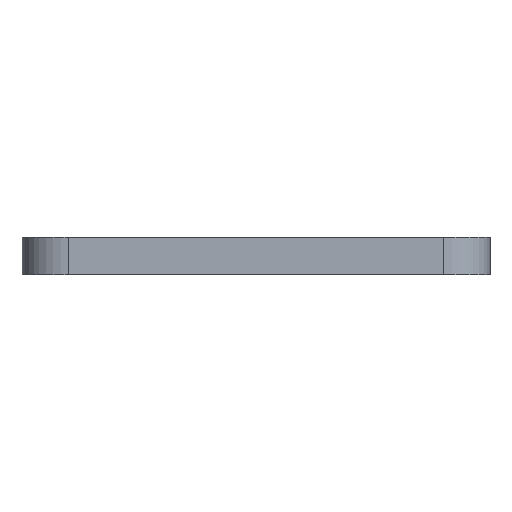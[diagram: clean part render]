
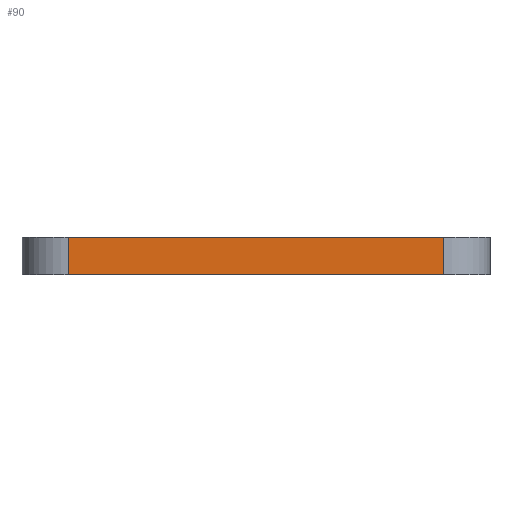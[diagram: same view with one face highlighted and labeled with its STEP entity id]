
A CAD part, front view. The second image highlights one B-rep face of the part: STEP entity #90.
In plain terms, the highlighted planar face has unit normal (0, -1, 0).
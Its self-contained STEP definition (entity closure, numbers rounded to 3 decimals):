
#63 = VERTEX_POINT('',#64);
#64 = CARTESIAN_POINT('',(-17.353,-29.,4.));
#71 = EDGE_CURVE('',#72,#63,#74,.T.);
#72 = VERTEX_POINT('',#73);
#73 = CARTESIAN_POINT('',(-17.353,-29.,0.));
#74 = LINE('',#75,#76);
#75 = CARTESIAN_POINT('',(-17.353,-29.,0.));
#76 = VECTOR('',#77,1.);
#77 = DIRECTION('',(0.,0.,1.));
#90 = ADVANCED_FACE('',(#91),#116,.F.);
#91 = FACE_BOUND('',#92,.F.);
#92 = EDGE_LOOP('',(#93,#94,#102,#110));
#93 = ORIENTED_EDGE('',*,*,#71,.T.);
#94 = ORIENTED_EDGE('',*,*,#95,.T.);
#95 = EDGE_CURVE('',#63,#96,#98,.T.);
#96 = VERTEX_POINT('',#97);
#97 = CARTESIAN_POINT('',(23.,-29.,4.));
#98 = LINE('',#99,#100);
#99 = CARTESIAN_POINT('',(-17.353,-29.,4.));
#100 = VECTOR('',#101,1.);
#101 = DIRECTION('',(1.,0.,0.));
#102 = ORIENTED_EDGE('',*,*,#103,.F.);
#103 = EDGE_CURVE('',#104,#96,#106,.T.);
#104 = VERTEX_POINT('',#105);
#105 = CARTESIAN_POINT('',(23.,-29.,0.));
#106 = LINE('',#107,#108);
#107 = CARTESIAN_POINT('',(23.,-29.,0.));
#108 = VECTOR('',#109,1.);
#109 = DIRECTION('',(0.,0.,1.));
#110 = ORIENTED_EDGE('',*,*,#111,.F.);
#111 = EDGE_CURVE('',#72,#104,#112,.T.);
#112 = LINE('',#113,#114);
#113 = CARTESIAN_POINT('',(-17.353,-29.,0.));
#114 = VECTOR('',#115,1.);
#115 = DIRECTION('',(1.,0.,0.));
#116 = PLANE('',#117);
#117 = AXIS2_PLACEMENT_3D('',#118,#119,#120);
#118 = CARTESIAN_POINT('',(-17.353,-29.,0.));
#119 = DIRECTION('',(0.,1.,0.));
#120 = DIRECTION('',(1.,0.,0.));
